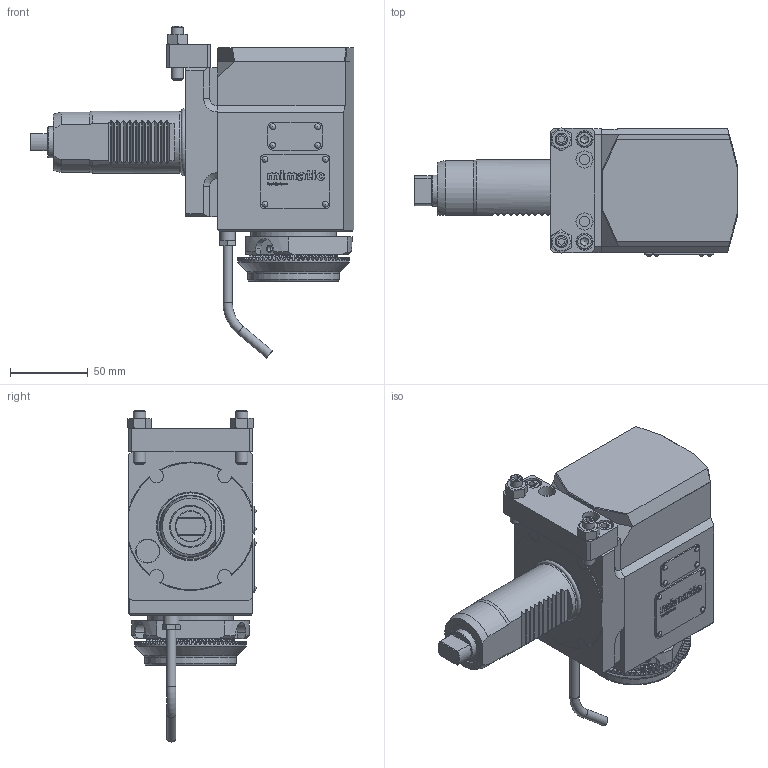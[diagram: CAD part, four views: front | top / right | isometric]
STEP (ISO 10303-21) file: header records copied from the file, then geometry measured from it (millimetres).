
FILE_DESCRIPTION(/* description */ (''),/* implementation_level */ '2;1');
FILE_NAME(/* name */ '124896',/* time_stamp */ '2020-08-10T11:07:53+02:00',/* author */ (''),/* organization */ (''),/* preprocessor_version */ 'ST-DEVELOPER v16.5',/* originating_system */ 'HiCAD 2017 2201.0 Build 268',/* authorisation */ '');
FILE_SCHEMA (('AUTOMOTIVE_DESIGN { 1 0 10303 214 1 1 1 1 }'));
Products named in the file (75): Root; Leeres Teil; 189666_BG-Schaft-EM-C-40_10*; 001_000X_130*; DIN 13-M20x1; 001_000X_260*; 퓐ᩑǜ; DIN 913-M 8x35-45H_Gewindwstift DIN 913-M 8x35-45H_427*; ߥÆ; ISO 4032-M 8-6_Sechskantmutter ISO 4032-M 8-6_358*; 驀砺¡; wǛ; DIN 912      (Innensechskant)_Zylinderschraube 6x16_405*; GEWINDE; 113985_O-Ring 37.77x2.62_330*; ROTATIONSTEIL_1_120*; DIN 13-M50x1; Leeres Teil_20*; ROTATIONSTEIL_0_150*; DIN 13-M25x1; DIN 76-M5; MI50; FEDERDRUCKSTÜCK; 112339_Federdruckstück ø6_50*; KUGEL D5; KUGEL D9; 114184_Kugel D9_30*; O-RING; 114078_O-Ring 8.5x1.27_40*; 00090786_20*; 00090784_10*; DIN 13-M48x1-LH; 003_000X_235*; 002_000X_100*; BG_M10; 112485_Überwurfschraube_353*; 112384_Doppelkegelring D6_352*; TORUS_1_354*; 00011769_372*; 113692_Kerbnagel 2x4_380*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
Assembly tree (74 placements, depth 8):
  Root
    Leeres Teil
      189666_BG-Schaft-EM-C-40_10*
        Leeres Teil
          Leeres Teil
            001_000X_130*
              DIN 13-M20x1
        Leeres Teil
          001_000X_260*
            퓐ᩑǜ
            퓐ᩑǜ
          DIN 913-M 8x35-45H_Gewindwstift DIN 913-M 8x35-45H_427*
            ߥÆ
          ISO 4032-M 8-6_Sechskantmutter ISO 4032-M 8-6_358*
            驀砺¡
          ISO 4032-M 8-6_Sechskantmutter ISO 4032-M 8-6_358*
            驀砺¡
          DIN 913-M 8x35-45H_Gewindwstift DIN 913-M 8x35-45H_427*
            wǛ
          DIN 912      (Innensechskant)_Zylinderschraube 6x16_405*
            GEWINDE
          DIN 912      (Innensechskant)_Zylinderschraube 6x16_405*
            GEWINDE
        Leeres Teil
          113985_O-Ring 37.77x2.62_330*
        ROTATIONSTEIL_1_120*
          DIN 13-M50x1
      Leeres Teil_20*
        Leeres Teil
          Leeres Teil
            ROTATIONSTEIL_0_150*
              DIN 13-M25x1
              DIN 76-M5
          MI50
            FEDERDRUCKSTÜCK
              112339_Federdruckstück ø6_50*
                KUGEL D5
              112339_Federdruckstück ø6_50*
                KUGEL D5
              112339_Federdruckstück ø6_50*
                KUGEL D5
            KUGEL D9
              114184_Kugel D9_30*
              114184_Kugel D9_30*
              114184_Kugel D9_30*
            O-RING
              114078_O-Ring 8.5x1.27_40*
              114078_O-Ring 8.5x1.27_40*
              114078_O-Ring 8.5x1.27_40*
            00090786_20*
            00090784_10*
              DIN 13-M48x1-LH
        Leeres Teil
          Leeres Teil
            003_000X_235*
            002_000X_100*
          Leeres Teil
            BG_M10
              112485_Überwurfschraube_353*
                (unnamed)
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Bounding box: 209 x 82.81 x 214.17 mm (x, y, z)
Volume: 1140184.5 mm3; surface area: 172487.3 mm2
Topology: 49 solids, 49 shells, 1412 faces, 3713 edges, 2426 vertices
Faces by surface type: plane 776, cone 289, cylinder 259, bspline 38, torus 36, sphere 14
Full cylindrical faces by diameter (mm): 2 x8, 2.2 x8, 4 x5, 4.773 x4, 5 x3, 6 x13, 6.466 x8, 6.5 x3, 6.6 x4, 7.2 x3, 8 x10, 8.773 x2, 9.12 x6, 10 x4, 11 x4, 11.2 x3, 18 x1, 20 x1, 36 x1, 38.7 x1, 40 x1, 45.5 x1, 46 x2, 46.15 x1, 47 x1, 48 x3, 48.3 x1, 52.623 x1, 53 x1, 55 x2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
Entity records: 87984 total; most frequent: CARTESIAN_POINT 19440, DIRECTION 7194, PRESENTATION_STYLE_ASSIGNMENT 6878, OVER_RIDING_STYLED_ITEM 6829, COLOUR_RGB 6828, DRAUGHTING_PRE_DEFINED_CURVE_FONT 6822, CURVE_STYLE 6822, ORIENTED_EDGE 6822
